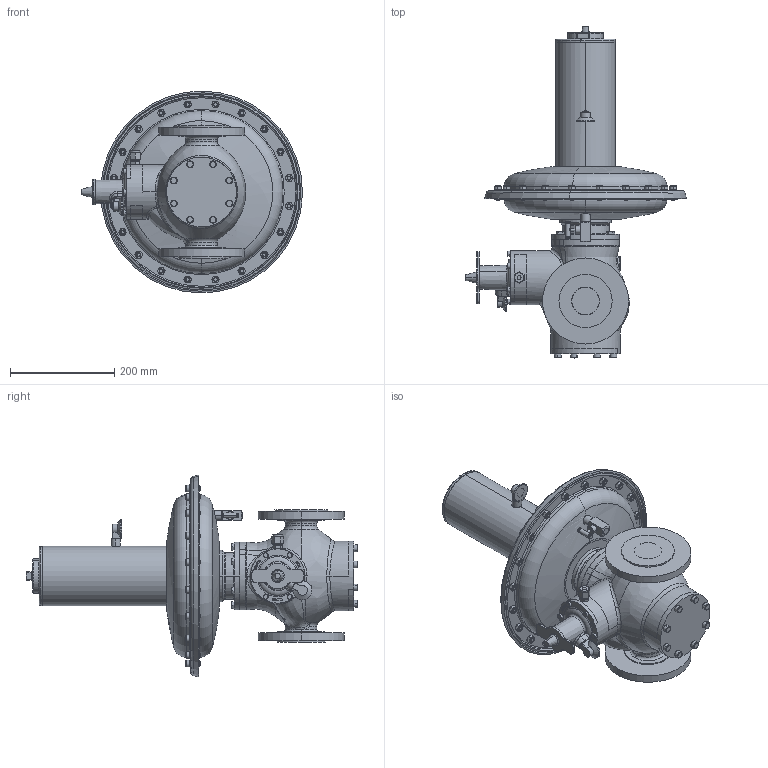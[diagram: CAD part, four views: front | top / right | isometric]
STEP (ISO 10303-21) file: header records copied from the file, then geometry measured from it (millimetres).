
FILE_DESCRIPTION((''),'2;1');
FILE_NAME('ASM0002_SW0001','2019-04-29T',('jjunior'),(''),'PRO/ENGINEER BY PARAMETRIC TECHNOLOGY CORPORATION, 2010160','PRO/ENGINEER BY PARAMETRIC TECHNOLOGY CORPORATION, 2010160','');
FILE_SCHEMA(('CONFIG_CONTROL_DESIGN'));
Products named in the file (1): ASM0002_SW0001
Bounding box: 423.77 x 636.6 x 387.13 mm (x, y, z)
Volume: 4006498.1 mm3; surface area: 1323141.5 mm2
Topology: 3 solids, 3 shells, 2562 faces, 5992 edges, 3654 vertices
Faces by surface type: plane 841, cylinder 676, cone 573, torus 257, bspline 183, sphere 29, extrusion 3
Entity records: 91759 total; most frequent: CARTESIAN_POINT 34578, DIRECTION 11914, ORIENTED_EDGE 11890, EDGE_CURVE 5945, AXIS2_PLACEMENT_3D 4882, VERTEX_POINT 3654, EDGE_LOOP 2899, FACE_OUTER_BOUND 2562
